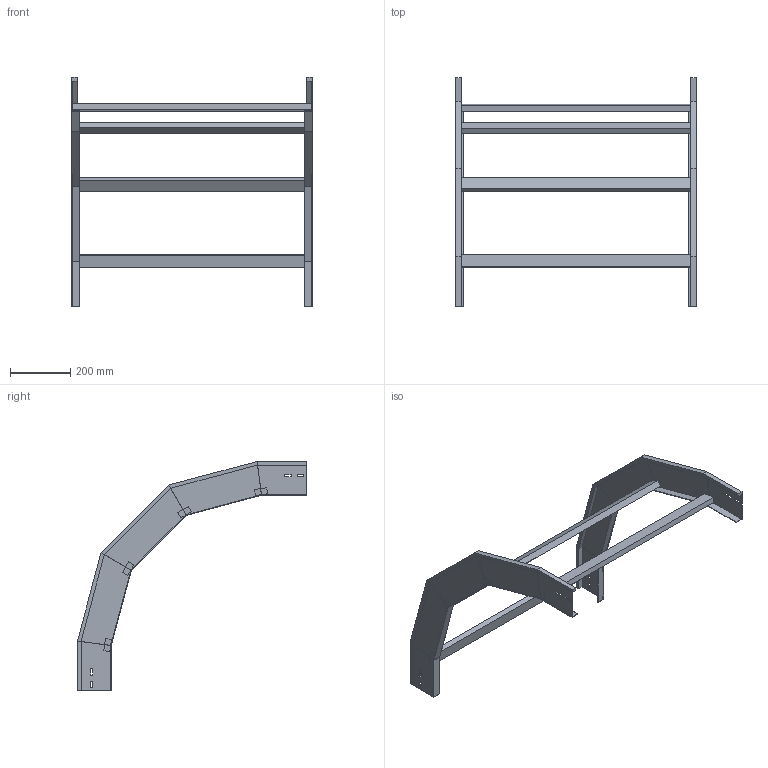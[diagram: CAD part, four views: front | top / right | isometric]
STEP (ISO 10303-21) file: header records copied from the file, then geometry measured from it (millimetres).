
FILE_DESCRIPTION (( 'STEP AP214' ), '1' );
FILE_NAME ('33B5J800.step', '2025-02-21T15:03:18', ( '' ), ( '' ), 'SwSTEP 2.0', 'SolidWorks 2023', '' );
FILE_SCHEMA (( 'AUTOMOTIVE_DESIGN' ));
Length unit declared in the file: millimetre
Products named in the file (3): TRAVERSINO_800; LONGH.DISCESA_90°_H112.5_R500; 33B5J800
Assembly tree (6 placements, depth 2):
  33B5J800
    LONGH.DISCESA_90°_H112.5_R500  x2
    TRAVERSINO_800  x4
Bounding box: 800 x 762.85 x 762.85 mm (x, y, z)
Volume: 3688482 mm3; surface area: 1114203.5 mm2
Topology: 6 solids, 6 shells, 140 faces, 320 edges, 192 vertices
Faces by surface type: plane 140
Entity records: 1872 total; most frequent: CARTESIAN_POINT 309, ORIENTED_EDGE 296, DIRECTION 294, VECTOR 148, LINE 148, EDGE_CURVE 148, VERTEX_POINT 88, AXIS2_PLACEMENT_3D 73
